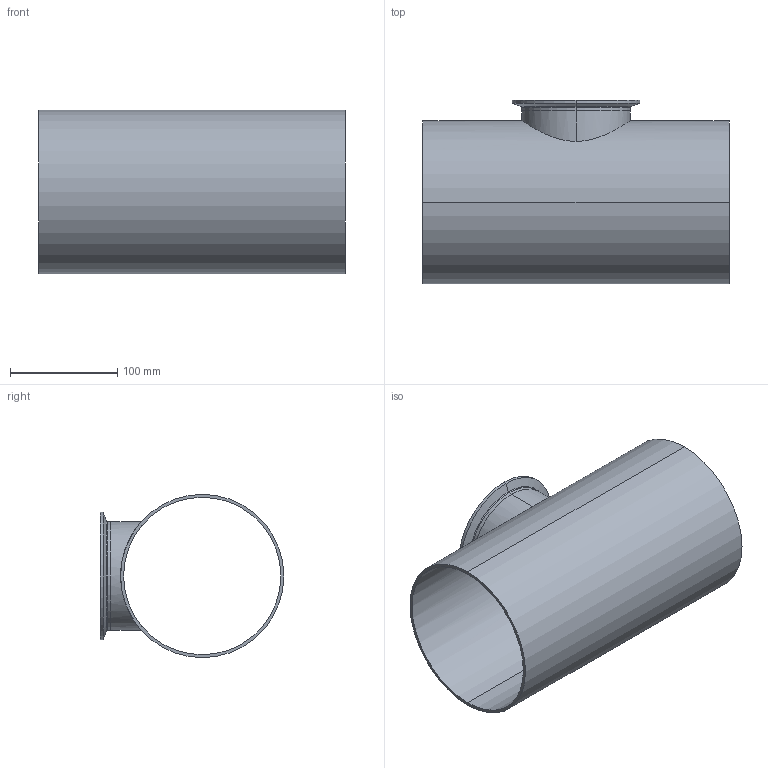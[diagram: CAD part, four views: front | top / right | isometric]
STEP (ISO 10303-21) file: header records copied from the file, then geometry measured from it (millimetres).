
FILE_DESCRIPTION (( 'STEP AP214' ), '1' );
FILE_NAME ('TE7RWWCS6L6.0x4.0-...STEP', '2016-05-23T12:42:06', ( 'eran' ), ( '' ), 'SwSTEP 2.0', 'SolidWorks 2016', '' );
FILE_SCHEMA (( 'AUTOMOTIVE_DESIGN' ));
Length unit declared in the file: millimetre
Products named in the file (1): TE7RWWCS6L6.0x4.0-..
Bounding box: 285.8 x 171.5 x 152.4 mm (x, y, z)
Volume: 381369.2 mm3; surface area: 280595.2 mm2
Topology: 2 solids, 2 shells, 36 faces, 88 edges, 58 vertices
Faces by surface type: cylinder 14, bspline 10, plane 6, cone 6
Entity records: 2073 total; most frequent: CARTESIAN_POINT 1169, DIRECTION 190, ORIENTED_EDGE 176, EDGE_CURVE 88, AXIS2_PLACEMENT_3D 85, VERTEX_POINT 58, CIRCLE 58, EDGE_LOOP 44
